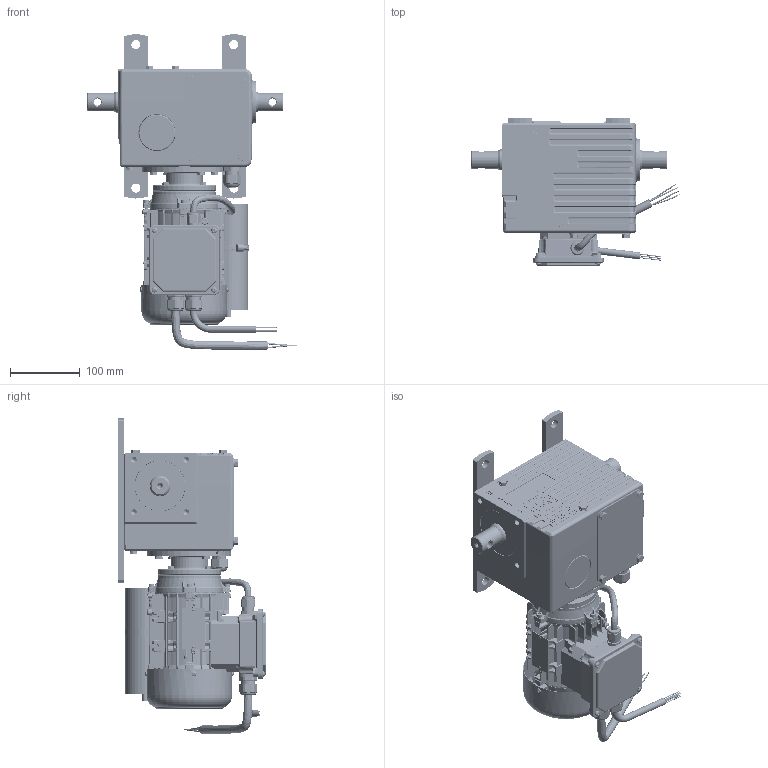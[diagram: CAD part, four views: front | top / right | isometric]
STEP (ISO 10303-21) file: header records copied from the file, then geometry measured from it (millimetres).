
FILE_DESCRIPTION (( 'STEP AP214' ), '1' );
FILE_NAME ('010202471_EWA_12_3D__DE.STEP', '2022-10-05T13:10:59', ( '' ), ( '' ), 'SwSTEP 2.0', 'SolidWorks 2022', '' );
FILE_SCHEMA (( 'AUTOMOTIVE_DESIGN' ));
Length unit declared in the file: millimetre
Products named in the file (25): Dichtelement_10005476; Wälzlager_10001868; 010194287_EWA_12_3D-Modell_DE_10194287; 010201148_EWA_14_3D__DE; Elektroteil_10001639; Schraube_10014320; 010191515_Normteil_Kaufteil_3D-Modell_DE_10191515; 010200560_EWA_12_3D__DE; Deckel_10000048; Dichtelement_10001203; Scheibe_10002061; 010192906_EWA_12_3D-Modell_DE_10192906_END 20-90000.0002.6584 m.SB-WH60; 010197604_EWA_3D-Modell_DE_10197604; 010200559_EWA_12_3D__DE_ohne Inhalt; 010218731_Normteil_Kaufteil_3D__DE_84204.0022.PI01; Schraube_10002078; Dichtelement_10032469; 010202471_EWA_12_3D__DE; Elektroteil_10028709; 010200597_Normteil_Kaufteil_3D__DE_DIN EN 24017 - M5 x 16-N; 010201152_Normteil_Kaufteil_3D__DE_DIN 7991 - M10 x 18 --- 10N; Schraube_10018291; Kennzeichnung_10001854; 010202442_EWA_12_3D__DE_Ohne Inhalt; Elektroteil_10001640
Assembly tree (47 placements, depth 3):
  010202471_EWA_12_3D__DE
    010202442_EWA_12_3D__DE_Ohne Inhalt
      010192906_EWA_12_3D-Modell_DE_10192906_END 20-90000.0002.6584 m.SB-WH60
      010201148_EWA_14_3D__DE  x2
      010201152_Normteil_Kaufteil_3D__DE_DIN 7991 - M10 x 18 --- 10N  x4
      Dichtelement_10005476
      Dichtelement_10032469
      Elektroteil_10001639
      Elektroteil_10001640
      Dichtelement_10001203
      Elektroteil_10028709
      Deckel_10000048
      Scheibe_10002061  x8
      010191515_Normteil_Kaufteil_3D-Modell_DE_10191515  x4
      Wälzlager_10001868
      Schraube_10018291  x4
      010194287_EWA_12_3D-Modell_DE_10194287
    Schraube_10014320
    010200559_EWA_12_3D__DE_ohne Inhalt
      010200560_EWA_12_3D__DE
      010197604_EWA_3D-Modell_DE_10197604
      010200597_Normteil_Kaufteil_3D__DE_DIN EN 24017 - M5 x 16-N  x4
    010218731_Normteil_Kaufteil_3D__DE_84204.0022.PI01
    Schraube_10002078  x4
    Kennzeichnung_10001854
Bounding box: 300.36 x 211.61 x 451.31 mm (x, y, z)
Volume: 1564429.2 mm3; surface area: 958361.4 mm2
Topology: 46 solids, 92 shells, 14424 faces, 37791 edges, 23558 vertices
Faces by surface type: plane 4497, cylinder 4014, bspline 3134, torus 1095, cone 1036, sphere 648
Entity records: 730621 total; most frequent: CARTESIAN_POINT 436708, ORIENTED_EDGE 72510, DIRECTION 40637, EDGE_CURVE 36291, VERTEX_POINT 22878, B_SPLINE_CURVE_WITH_KNOTS 21538, AXIS2_PLACEMENT_3D 15660, EDGE_LOOP 14835
